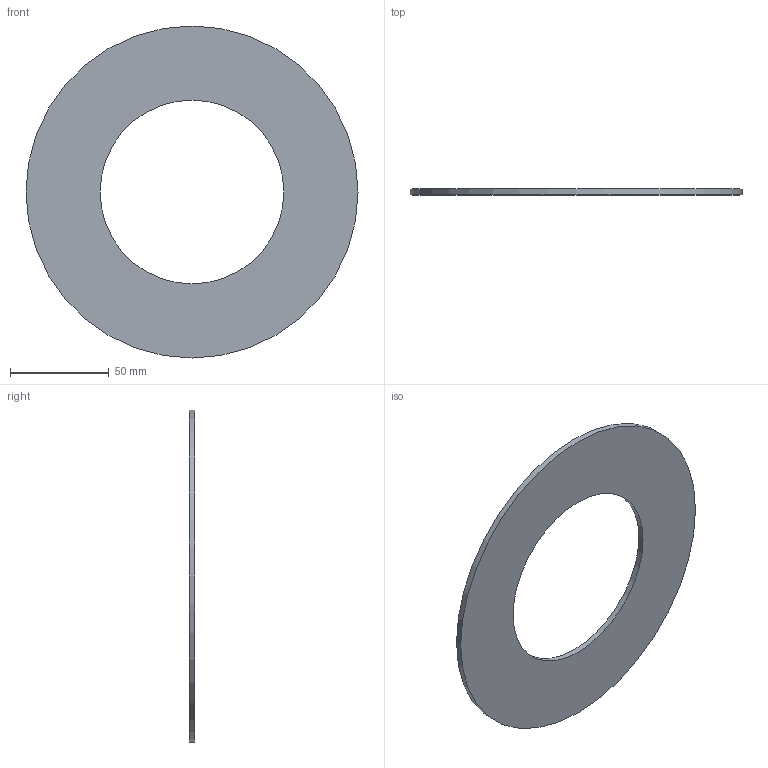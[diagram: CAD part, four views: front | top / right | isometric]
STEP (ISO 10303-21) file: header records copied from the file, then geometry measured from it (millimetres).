
FILE_DESCRIPTION(/* description */ ('Unknown'),/* implementation_level */ '2;1');
FILE_NAME(/* name */ 'GUA.125H',/* time_stamp */ '2021-04-01T15:03:10+02:00',/* author */ ('Unknown'),/* organization */ ('Unknown'),/* preprocessor_version */ 'ST-DEVELOPER v16.7',/* originating_system */ 'Solid Edge',/* authorisation */ 'Unknown');
FILE_SCHEMA (('AUTOMOTIVE_DESIGN {1 0 10303 214 3 1 1}'));
Length unit declared in the file: millimetre
Products named in the file (1): GUA.125H
Bounding box: 168 x 3 x 168 mm (x, y, z)
Volume: 46122.5 mm3; surface area: 33208.2 mm2
Topology: 1 solids, 1 shells, 4 faces, 6 edges, 4 vertices
Faces by surface type: cylinder 2, plane 2
Full cylindrical faces by diameter (mm): 93 x1, 168 x1
Entity records: 118 total; most frequent: DIRECTION 18, CARTESIAN_POINT 13, AXIS2_PLACEMENT_3D 9, ORIENTED_EDGE 8, EDGE_LOOP 8, FACE_BOUND 8, EDGE_CURVE 4, VERTEX_POINT 4
